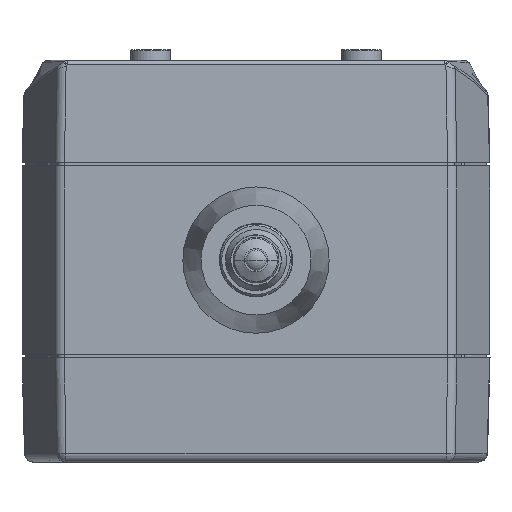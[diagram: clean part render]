
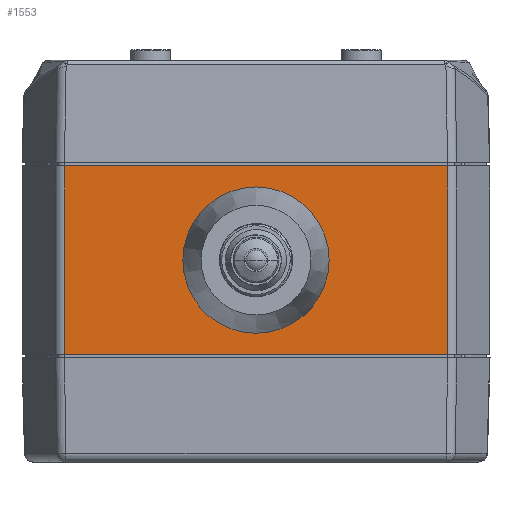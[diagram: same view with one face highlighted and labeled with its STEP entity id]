
A CAD part, front view. The second image highlights one B-rep face of the part: STEP entity #1553.
In plain terms, the highlighted planar face has unit normal (0, -1, 0).
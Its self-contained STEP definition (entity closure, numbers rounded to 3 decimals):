
#718=LINE('',#7949,#1061);
#898=LINE('',#10371,#1245);
#899=LINE('',#10379,#1246);
#900=LINE('',#10381,#1247);
#1061=VECTOR('',#6356,1.);
#1245=VECTOR('',#6990,1.);
#1246=VECTOR('',#6999,1.);
#1247=VECTOR('',#7000,1.);
#1553=ADVANCED_FACE('NONE',(#1963,#1964),#1827,.F.);
#1827=PLANE('',#5950);
#1963=FACE_BOUND('',#2289,.T.);
#1964=FACE_BOUND('',#2290,.T.);
#2289=EDGE_LOOP('',(#3332,#3333));
#2290=EDGE_LOOP('',(#3334,#3335,#3336,#3337));
#3332=ORIENTED_EDGE('',*,*,#5066,.T.);
#3333=ORIENTED_EDGE('',*,*,#5067,.T.);
#3334=ORIENTED_EDGE('',*,*,#4679,.T.);
#3335=ORIENTED_EDGE('',*,*,#5068,.T.);
#3336=ORIENTED_EDGE('',*,*,#5069,.F.);
#3337=ORIENTED_EDGE('',*,*,#5064,.T.);
#4150=VERTEX_POINT('',#7948);
#4151=VERTEX_POINT('',#7950);
#4406=VERTEX_POINT('',#10372);
#4407=VERTEX_POINT('',#10376);
#4408=VERTEX_POINT('',#10377);
#4409=VERTEX_POINT('',#10380);
#4679=EDGE_CURVE('',#4151,#4150,#718,.T.);
#5064=EDGE_CURVE('',#4406,#4151,#898,.T.);
#5066=EDGE_CURVE('',#4407,#4408,#5558,.T.);
#5067=EDGE_CURVE('',#4408,#4407,#5559,.T.);
#5068=EDGE_CURVE('',#4150,#4409,#899,.T.);
#5069=EDGE_CURVE('',#4406,#4409,#900,.T.);
#5558=CIRCLE('',#5948,8.);
#5559=CIRCLE('',#5949,8.);
#5948=AXIS2_PLACEMENT_3D('',#10375,#6995,#6996);
#5949=AXIS2_PLACEMENT_3D('',#10378,#6997,#6998);
#5950=AXIS2_PLACEMENT_3D('',#10382,#7001,#7002);
#6356=DIRECTION('',(1.,0.,0.));
#6990=DIRECTION('',(0.,0.,-1.));
#6995=DIRECTION('',(0.,1.,0.));
#6996=DIRECTION('',(0.,0.,1.));
#6997=DIRECTION('',(0.,1.,0.));
#6998=DIRECTION('',(0.,0.,1.));
#6999=DIRECTION('',(0.,0.,1.));
#7000=DIRECTION('',(1.,0.,0.));
#7001=DIRECTION('',(0.,1.,0.));
#7002=DIRECTION('',(0.,0.,1.));
#7948=CARTESIAN_POINT('',(325.801,-12.953,-10.3));
#7949=CARTESIAN_POINT('',(283.901,-12.953,-10.3));
#7950=CARTESIAN_POINT('',(283.901,-12.953,-10.3));
#10371=CARTESIAN_POINT('',(283.901,-12.953,10.3));
#10372=CARTESIAN_POINT('',(283.901,-12.953,10.3));
#10375=CARTESIAN_POINT('',(304.849,-12.953,0.));
#10376=CARTESIAN_POINT('',(304.849,-12.953,-8.));
#10377=CARTESIAN_POINT('',(304.849,-12.953,8.));
#10378=CARTESIAN_POINT('',(304.849,-12.953,0.));
#10379=CARTESIAN_POINT('',(325.801,-12.953,10.3));
#10380=CARTESIAN_POINT('',(325.801,-12.953,10.3));
#10381=CARTESIAN_POINT('',(283.901,-12.953,10.3));
#10382=CARTESIAN_POINT('',(283.901,-12.953,10.3));
